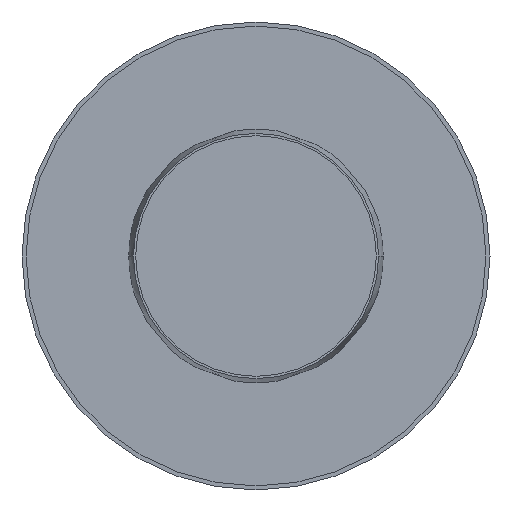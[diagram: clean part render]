
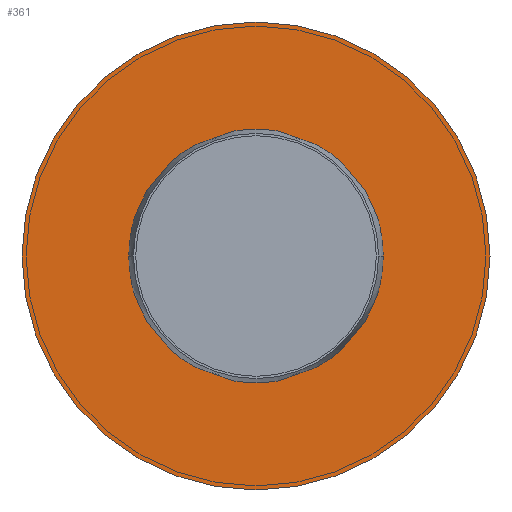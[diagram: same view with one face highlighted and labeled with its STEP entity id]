
A CAD part, front view. The second image highlights one B-rep face of the part: STEP entity #361.
In plain terms, the highlighted planar face has unit normal (0, -1, 0).
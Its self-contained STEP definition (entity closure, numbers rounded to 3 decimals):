
#16 = CARTESIAN_POINT ( 'NONE',  ( 975.816, 613.958, 0. ) ) ;
#28 = ORIENTED_EDGE ( 'NONE', *, *, #795, .T. ) ;
#32 = EDGE_LOOP ( 'NONE', ( #445, #28 ) ) ;
#103 = VERTEX_POINT ( 'NONE', #1599 ) ;
#177 = DIRECTION ( 'NONE',  ( 0., -1., 0. ) ) ;
#301 = CIRCLE ( 'NONE', #1737, 210. ) ;
#316 = EDGE_CURVE ( 'NONE', #666, #1832, #1669, .T. ) ;
#361 = ADVANCED_FACE ( 'NONE', ( #606, #943 ), #1283, .T. ) ;
#376 = EDGE_CURVE ( 'NONE', #1832, #666, #1898, .T. ) ;
#386 = DIRECTION ( 'NONE',  ( 0., -1., 0. ) ) ;
#445 = ORIENTED_EDGE ( 'NONE', *, *, #1947, .T. ) ;
#455 = CARTESIAN_POINT ( 'NONE',  ( 975.816, 613.958, -210. ) ) ;
#508 = AXIS2_PLACEMENT_3D ( 'NONE', #1894, #386, #1434 ) ;
#537 = DIRECTION ( 'NONE',  ( 0., 0., -1. ) ) ;
#566 = DIRECTION ( 'NONE',  ( 0., -1., 0. ) ) ;
#606 = FACE_OUTER_BOUND ( 'NONE', #32, .T. ) ;
#649 = CARTESIAN_POINT ( 'NONE',  ( 975.816, 613.958, 10. ) ) ;
#666 = VERTEX_POINT ( 'NONE', #649 ) ;
#749 = AXIS2_PLACEMENT_3D ( 'NONE', #1621, #566, #1044 ) ;
#795 = EDGE_CURVE ( 'NONE', #103, #1758, #1340, .T. ) ;
#801 = DIRECTION ( 'NONE',  ( 0., 0., -1. ) ) ;
#877 = AXIS2_PLACEMENT_3D ( 'NONE', #1125, #1560, #537 ) ;
#898 = CARTESIAN_POINT ( 'NONE',  ( 975.816, 613.958, -10. ) ) ;
#943 = FACE_BOUND ( 'NONE', #1130, .T. ) ;
#970 = ORIENTED_EDGE ( 'NONE', *, *, #316, .F. ) ;
#1044 = DIRECTION ( 'NONE',  ( 0., 0., -1. ) ) ;
#1125 = CARTESIAN_POINT ( 'NONE',  ( 975.816, 613.958, 0. ) ) ;
#1130 = EDGE_LOOP ( 'NONE', ( #1761, #970 ) ) ;
#1155 = AXIS2_PLACEMENT_3D ( 'NONE', #1165, #1460, #1580 ) ;
#1165 = CARTESIAN_POINT ( 'NONE',  ( 975.816, 613.958, 0. ) ) ;
#1283 = PLANE ( 'NONE',  #508 ) ;
#1340 = CIRCLE ( 'NONE', #877, 210. ) ;
#1434 = DIRECTION ( 'NONE',  ( 0., 0., -1. ) ) ;
#1460 = DIRECTION ( 'NONE',  ( 0., -1., 0. ) ) ;
#1560 = DIRECTION ( 'NONE',  ( 0., -1., 0. ) ) ;
#1580 = DIRECTION ( 'NONE',  ( 0., 0., -1. ) ) ;
#1599 = CARTESIAN_POINT ( 'NONE',  ( 975.816, 613.958, 210. ) ) ;
#1621 = CARTESIAN_POINT ( 'NONE',  ( 975.816, 613.958, 0. ) ) ;
#1669 = CIRCLE ( 'NONE', #1155, 10. ) ;
#1737 = AXIS2_PLACEMENT_3D ( 'NONE', #16, #177, #801 ) ;
#1758 = VERTEX_POINT ( 'NONE', #455 ) ;
#1761 = ORIENTED_EDGE ( 'NONE', *, *, #376, .F. ) ;
#1832 = VERTEX_POINT ( 'NONE', #898 ) ;
#1894 = CARTESIAN_POINT ( 'NONE',  ( 965.816, 613.958, 0. ) ) ;
#1898 = CIRCLE ( 'NONE', #749, 10. ) ;
#1947 = EDGE_CURVE ( 'NONE', #1758, #103, #301, .T. ) ;
